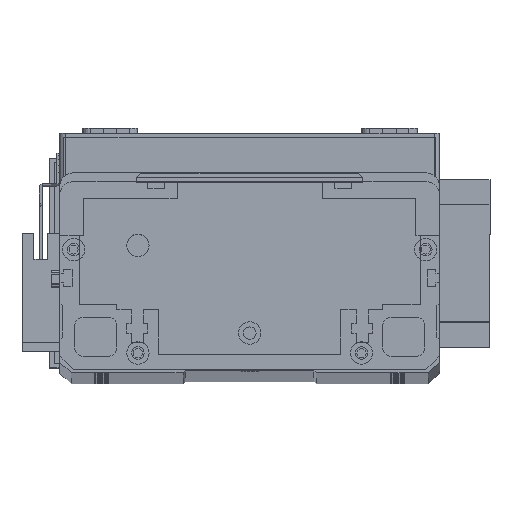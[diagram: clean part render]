
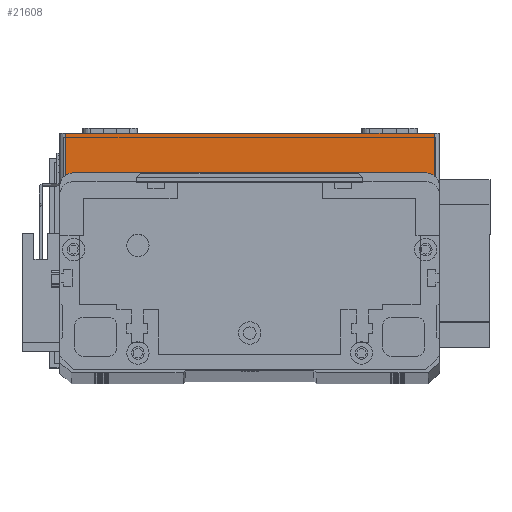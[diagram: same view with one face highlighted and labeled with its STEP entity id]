
A CAD part, top view. The second image highlights one B-rep face of the part: STEP entity #21608.
In plain terms, the highlighted planar face has unit normal (0, 0, 1) as drawn and (0, -1, 0) by its records, which use the part's own axes.
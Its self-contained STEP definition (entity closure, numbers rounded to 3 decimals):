
#571 = EDGE_CURVE ( 'NONE', #26768, #25322, #10616, .T. ) ;
#985 = CARTESIAN_POINT ( 'NONE',  ( 2., 0., 19.5 ) ) ;
#1100 = VERTEX_POINT ( 'NONE', #12089 ) ;
#1277 = CARTESIAN_POINT ( 'NONE',  ( 2., 0., 19.5 ) ) ;
#1818 = CARTESIAN_POINT ( 'NONE',  ( 0., 0., 19.5 ) ) ;
#2034 = FACE_OUTER_BOUND ( 'NONE', #21811, .T. ) ;
#2584 = VERTEX_POINT ( 'NONE', #9738 ) ;
#3640 = DIRECTION ( 'NONE',  ( 0., 0., -1. ) ) ;
#3794 = ORIENTED_EDGE ( 'NONE', *, *, #571, .F. ) ;
#4595 = DIRECTION ( 'NONE',  ( 0., 0., 1. ) ) ;
#5175 = ORIENTED_EDGE ( 'NONE', *, *, #17524, .T. ) ;
#6787 = VECTOR ( 'NONE', #12535, 1000. ) ;
#9535 = EDGE_CURVE ( 'NONE', #2584, #1100, #19300, .T. ) ;
#9738 = CARTESIAN_POINT ( 'NONE',  ( 2., 0., 0. ) ) ;
#10616 = LINE ( 'NONE', #1818, #16146 ) ;
#11450 = CARTESIAN_POINT ( 'NONE',  ( 134., 0., 19.5 ) ) ;
#12007 = LINE ( 'NONE', #11450, #18294 ) ;
#12089 = CARTESIAN_POINT ( 'NONE',  ( 134., 0., 0. ) ) ;
#12535 = DIRECTION ( 'NONE',  ( 1., 0., 0. ) ) ;
#16146 = VECTOR ( 'NONE', #22366, 1000. ) ;
#17058 = EDGE_CURVE ( 'NONE', #1100, #25322, #12007, .T. ) ;
#17524 = EDGE_CURVE ( 'NONE', #26768, #2584, #29968, .T. ) ;
#17908 = ORIENTED_EDGE ( 'NONE', *, *, #9535, .T. ) ;
#18294 = VECTOR ( 'NONE', #29912, 1000. ) ;
#18683 = DIRECTION ( 'NONE',  ( 0., 1., 0. ) ) ;
#19300 = LINE ( 'NONE', #21905, #6787 ) ;
#20931 = CARTESIAN_POINT ( 'NONE',  ( 0., 0., 19.5 ) ) ;
#21608 = ADVANCED_FACE ( 'NONE', ( #2034 ), #25603, .F. ) ;
#21811 = EDGE_LOOP ( 'NONE', ( #3794, #5175, #17908, #30308 ) ) ;
#21905 = CARTESIAN_POINT ( 'NONE',  ( 0., 0., 0. ) ) ;
#22366 = DIRECTION ( 'NONE',  ( 1., 0., 0. ) ) ;
#23970 = AXIS2_PLACEMENT_3D ( 'NONE', #20931, #18683, #4595 ) ;
#25322 = VERTEX_POINT ( 'NONE', #27729 ) ;
#25603 = PLANE ( 'NONE',  #23970 ) ;
#26768 = VERTEX_POINT ( 'NONE', #985 ) ;
#27729 = CARTESIAN_POINT ( 'NONE',  ( 134., 0., 19.5 ) ) ;
#29227 = VECTOR ( 'NONE', #3640, 1000. ) ;
#29912 = DIRECTION ( 'NONE',  ( 0., 0., 1. ) ) ;
#29968 = LINE ( 'NONE', #1277, #29227 ) ;
#30308 = ORIENTED_EDGE ( 'NONE', *, *, #17058, .T. ) ;
